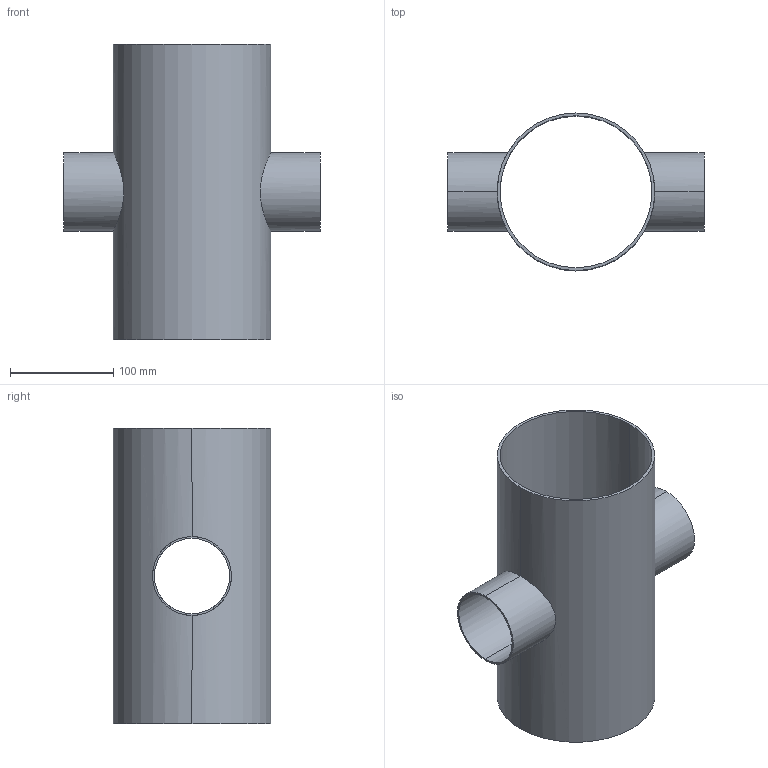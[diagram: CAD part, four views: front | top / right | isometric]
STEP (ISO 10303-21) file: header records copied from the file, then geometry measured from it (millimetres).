
FILE_DESCRIPTION (( 'STEP AP214' ), '1' );
FILE_NAME ('TE9RWWWW6L6.0x3.0-...STEP', '2016-05-22T04:49:03', ( 'eran' ), ( '' ), 'SwSTEP 2.0', 'SolidWorks 2016', '' );
FILE_SCHEMA (( 'AUTOMOTIVE_DESIGN' ));
Length unit declared in the file: millimetre
Products named in the file (1): TE9RWWWW6L6.0x3.0-..
Bounding box: 247.65 x 152.4 x 285.75 mm (x, y, z)
Volume: 388556.8 mm3; surface area: 304418.8 mm2
Topology: 1 solids, 1 shells, 16 faces, 40 edges, 24 vertices
Faces by surface type: cylinder 12, plane 4
Entity records: 1066 total; most frequent: CARTESIAN_POINT 641, DIRECTION 82, ORIENTED_EDGE 80, EDGE_CURVE 40, AXIS2_PLACEMENT_3D 33, VERTEX_POINT 24, EDGE_LOOP 20, FACE_OUTER_BOUND 16
